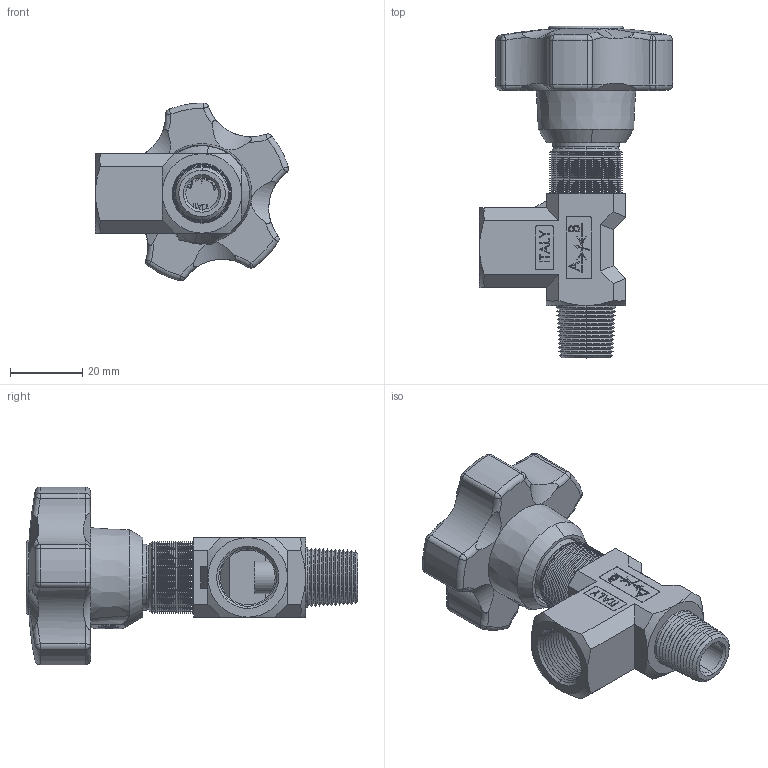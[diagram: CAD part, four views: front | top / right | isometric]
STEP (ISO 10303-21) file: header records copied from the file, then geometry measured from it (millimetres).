
FILE_DESCRIPTION (( 'STEP AP214' ), '1' );
FILE_NAME ('252-2-38 VOLANTINO ABS M-F.STEP', '2015-05-15T15:38:45', ( '' ), ( '' ), 'SwSTEP 2.0', 'SolidWorks 2014', '' );
FILE_SCHEMA (( 'AUTOMOTIVE_DESIGN' ));
Length unit declared in the file: millimetre
Products named in the file (1): 252-2-38 VOLANTINO ABS  M-F
Bounding box: 53.45 x 91.84 x 49.25 mm (x, y, z)
Surface area: 16729.9 mm2 (no closed solid volume)
Topology: 0 solids, 27 shells, 587 faces, 1884 edges, 1273 vertices
Faces by surface type: plane 210, cone 178, cylinder 79, bspline 69, sphere 28, torus 23
Entity records: 31521 total; most frequent: CARTESIAN_POINT 9259, DIRECTION 3113, ORIENTED_EDGE 3089, EDGE_CURVE 1868, VERTEX_POINT 1265, LINE 1103, VECTOR 1103, AXIS2_PLACEMENT_3D 1005
